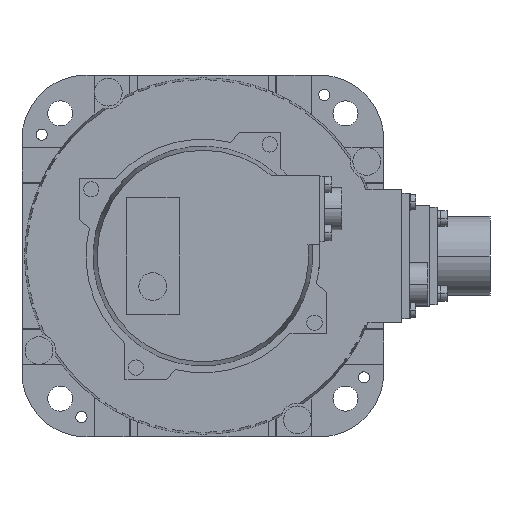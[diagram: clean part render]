
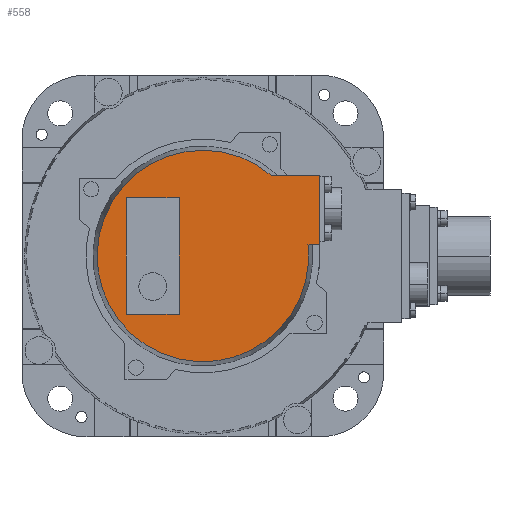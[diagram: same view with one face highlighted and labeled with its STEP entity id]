
A CAD part, left-side view. The second image highlights one B-rep face of the part: STEP entity #558.
In plain terms, the highlighted planar face has unit normal (-1, 0, 0).
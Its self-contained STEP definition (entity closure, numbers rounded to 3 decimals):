
#558=ADVANCED_FACE('',(#5327,#5328),#5326,.F.);
#5326=PLANE('',#10111);
#5327=FACE_OUTER_BOUND('',#10112,.T.);
#5328=FACE_BOUND('',#10113,.T.);
#10108=CARTESIAN_POINT('',(-205.,-52.891,71.254));
#10109=DIRECTION('',(1.,0.,0.));
#10110=DIRECTION('',(0.,0.,-1.));
#10111=AXIS2_PLACEMENT_3D('',#10108,#10109,#10110);
#10112=EDGE_LOOP('',(#14009,#14010,#14011,#14012));
#10113=EDGE_LOOP('',(#14013,#14014,#14015,#14016));
#14009=ORIENTED_EDGE('',*,*,#15332,.F.);
#14010=ORIENTED_EDGE('',*,*,#15354,.F.);
#14011=ORIENTED_EDGE('',*,*,#15119,.F.);
#14012=ORIENTED_EDGE('',*,*,#15349,.F.);
#14013=ORIENTED_EDGE('',*,*,#16637,.F.);
#14014=ORIENTED_EDGE('',*,*,#16638,.F.);
#14015=ORIENTED_EDGE('',*,*,#16639,.F.);
#14016=ORIENTED_EDGE('',*,*,#16640,.F.);
#15119=EDGE_CURVE('',#17138,#17139,#17140,.T.);
#15332=EDGE_CURVE('',#18620,#18621,#18622,.T.);
#15349=EDGE_CURVE('',#18621,#17138,#18734,.T.);
#15354=EDGE_CURVE('',#17139,#18620,#18766,.T.);
#16637=EDGE_CURVE('',#27333,#27334,#27335,.T.);
#16638=EDGE_CURVE('',#27341,#27333,#27342,.T.);
#16639=EDGE_CURVE('',#27348,#27341,#27349,.T.);
#16640=EDGE_CURVE('',#27334,#27348,#27355,.T.);
#17138=VERTEX_POINT('',#29413);
#17139=VERTEX_POINT('',#29414);
#17140=LINE('',#29415,#29416);
#18620=VERTEX_POINT('',#30359);
#18621=VERTEX_POINT('',#30360);
#18622=CIRCLE('',#30364,38.);
#18734=LINE('',#30436,#30437);
#18766=LINE('',#30454,#30455);
#27333=VERTEX_POINT('',#35717);
#27334=VERTEX_POINT('',#35718);
#27335=LINE('',#35719,#35720);
#27341=VERTEX_POINT('',#35722);
#27342=LINE('',#35723,#35724);
#27348=VERTEX_POINT('',#35726);
#27349=LINE('',#35727,#35728);
#27355=LINE('',#35730,#35731);
#29413=CARTESIAN_POINT('',(-205.,-42.,29.));
#29414=CARTESIAN_POINT('',(-205.,-42.,4.));
#29415=CARTESIAN_POINT('',(-205.,-42.,29.));
#29416=VECTOR('',#29417,25.);
#29417=DIRECTION('',(0.,0.,-1.));
#30359=CARTESIAN_POINT('',(-205.,-37.789,4.));
#30360=CARTESIAN_POINT('',(-205.,-24.556,29.));
#30361=CARTESIAN_POINT('',(-205.,0.,0.));
#30362=DIRECTION('',(1.,0.,0.));
#30363=DIRECTION('',(0.,-0.994,0.105));
#30364=AXIS2_PLACEMENT_3D('',#30361,#30362,#30363);
#30436=CARTESIAN_POINT('',(-205.,-24.556,29.));
#30437=VECTOR('',#30438,17.444);
#30438=DIRECTION('',(0.,-1.,0.));
#30454=CARTESIAN_POINT('',(-205.,-42.,4.));
#30455=VECTOR('',#30456,4.211);
#30456=DIRECTION('',(0.,1.,0.));
#35717=CARTESIAN_POINT('',(-205.,8.5,-21.));
#35718=CARTESIAN_POINT('',(-205.,8.5,21.));
#35719=CARTESIAN_POINT('',(-205.,8.5,-21.));
#35720=VECTOR('',#35721,42.);
#35721=DIRECTION('',(0.,0.,1.));
#35722=CARTESIAN_POINT('',(-205.,27.5,-21.));
#35723=CARTESIAN_POINT('',(-205.,27.5,-21.));
#35724=VECTOR('',#35725,19.);
#35725=DIRECTION('',(0.,-1.,0.));
#35726=CARTESIAN_POINT('',(-205.,27.5,21.));
#35727=CARTESIAN_POINT('',(-205.,27.5,21.));
#35728=VECTOR('',#35729,42.);
#35729=DIRECTION('',(0.,0.,-1.));
#35730=CARTESIAN_POINT('',(-205.,8.5,21.));
#35731=VECTOR('',#35732,19.);
#35732=DIRECTION('',(0.,1.,0.));
